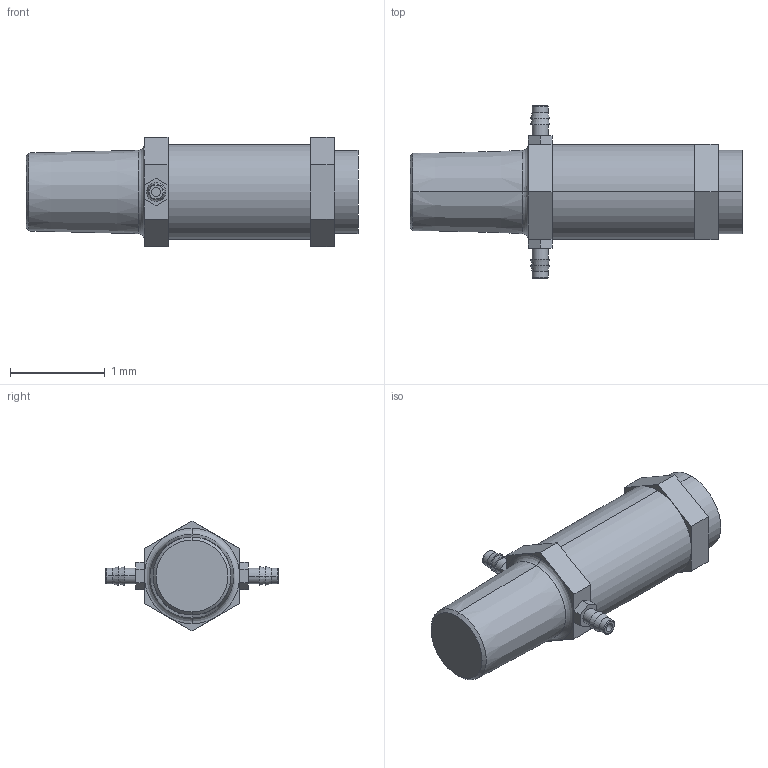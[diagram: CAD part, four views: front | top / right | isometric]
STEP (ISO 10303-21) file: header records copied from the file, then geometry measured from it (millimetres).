
FILE_DESCRIPTION((''),'2;1');
FILE_NAME('UER2.stp','2017-11-07T13:15:12',(''),(''),'Mechanical Desktop 2011','Mechanical Desktop 2011',', , ');
FILE_SCHEMA(('CONFIG_CONTROL_DESIGN'));
Length unit declared in the file: millimetre
Products named in the file (1): Product
Bounding box: 3.5 x 1.81 x 1.15 mm (x, y, z)
Volume: 2.5 mm3; surface area: 17.5 mm2
Topology: 6 solids, 6 shells, 88 faces, 186 edges, 116 vertices
Faces by surface type: plane 54, cylinder 16, cone 12, torus 4, bspline 2
Entity records: 2525 total; most frequent: CARTESIAN_POINT 479, DIRECTION 434, ORIENTED_EDGE 372, EDGE_CURVE 186, AXIS2_PLACEMENT_3D 161, VERTEX_POINT 116, VECTOR 112, LINE 112
